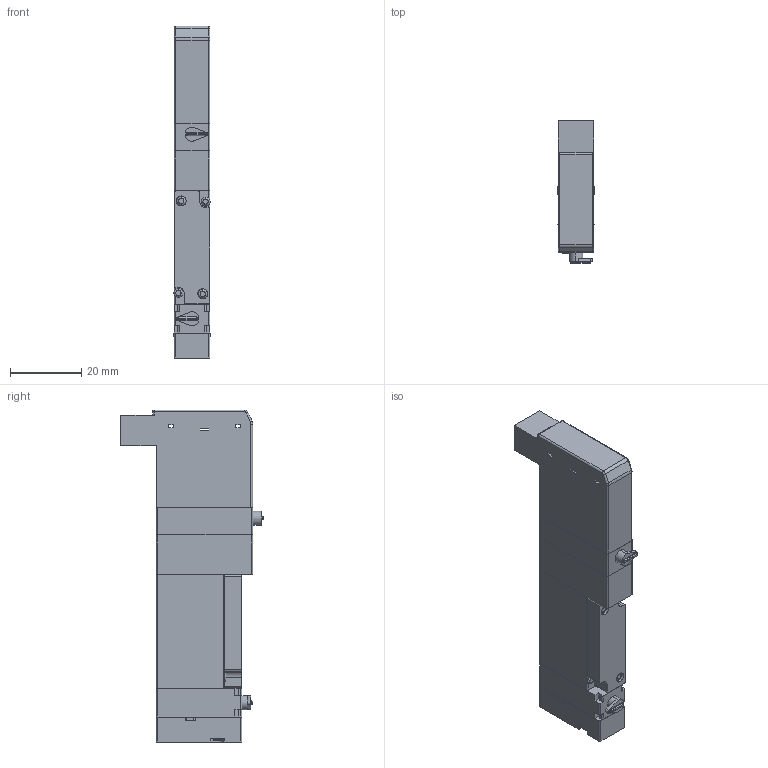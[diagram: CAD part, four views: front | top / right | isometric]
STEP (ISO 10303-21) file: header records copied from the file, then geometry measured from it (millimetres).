
FILE_DESCRIPTION( (''), '2;1');
FILE_NAME ('CVICAD02.13484.F10T3-R-A1_6038.stp','2020-09-01T14:11:30',(''),(''),'spGate 12.6.6','','');
FILE_SCHEMA (('AUTOMOTIVE_DESIGN'));
Length unit declared in the file: millimetre
Products named in the file (8): Assembly; F10_Adptor; F10_Cap; F_Connector-L; F10T_Body; F10_SwitchBlock-R; F_3PortBody-R; F10_A1
Assembly tree (7 placements, depth 2):
  Assembly
    F10_Adptor
    F10_Cap
    F_Connector-L
    F10T_Body
    F10_SwitchBlock-R
    F_3PortBody-R
    F10_A1
Bounding box: 10.2 x 40 x 93 mm (x, y, z)
Volume: 24212.7 mm3; surface area: 11107.5 mm2
Topology: 7 solids, 7 shells, 248 faces, 618 edges, 390 vertices
Faces by surface type: plane 127, cylinder 91, bspline 20, sphere 10
Entity records: 12800 total; most frequent: CARTESIAN_POINT 1689, DIRECTION 1279, ORIENTED_EDGE 1216, COLOUR_RGB 863, PRESENTATION_STYLE_ASSIGNMENT 863, STYLED_ITEM 863, EDGE_CURVE 608, DRAUGHTING_PRE_DEFINED_CURVE_FONT 608
